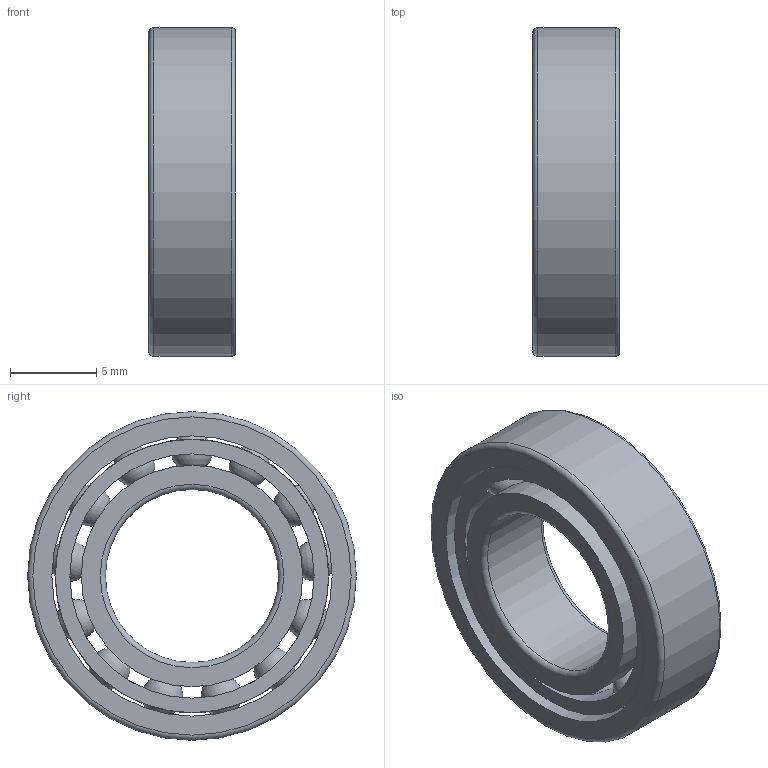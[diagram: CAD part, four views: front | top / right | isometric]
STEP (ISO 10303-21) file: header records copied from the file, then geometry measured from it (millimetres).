
FILE_DESCRIPTION(/* description */ (''),/* implementation_level */ '2;1');
FILE_NAME(/* name */ 'S_61800_TA.step',/* time_stamp */ '2013-03-06T14:46:14+01:00',/* author */ ('Marian'),/* organization */ ('GMN'),/* preprocessor_version */ 'ST-DEVELOPER v11',/* originating_system */ 'SIEMENS UGS NX 6.0',/* authorisation */ '');
FILE_SCHEMA (('CONFIG_CONTROL_DESIGN'));
Length unit declared in the file: millimetre
Products named in the file (1): S_61800_TA
Bounding box: 5 x 19 x 19 mm (x, y, z)
Volume: 762 mm3; surface area: 1781.1 mm2
Topology: 16 solids, 16 shells, 46 faces, 112 edges, 72 vertices
Faces by surface type: cylinder 20, sphere 13, torus 6, plane 6, cone 1
Full cylindrical faces by diameter (mm): 2.581 x13, 10 x1, 12.8 x2, 14.121 x1, 15.8 x1, 16.2 x1, 19 x1
Entity records: 2500 total; most frequent: CARTESIAN_POINT 1634, DIRECTION 134, FACE_BOUND 105, EDGE_LOOP 92, ORIENTED_EDGE 92, AXIS2_PLACEMENT_3D 67, VERTEX_POINT 59, EDGE_CURVE 46
